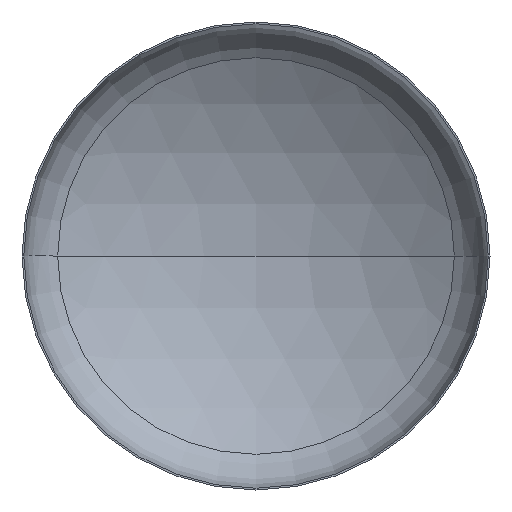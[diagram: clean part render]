
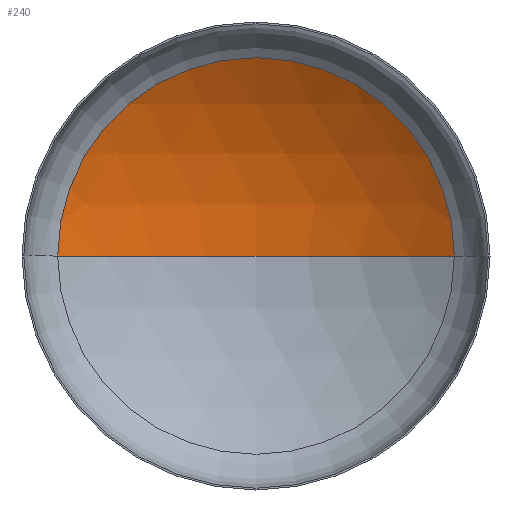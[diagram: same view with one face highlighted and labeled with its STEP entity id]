
A CAD part, front view. The second image highlights one B-rep face of the part: STEP entity #240.
In plain terms, the highlighted spherical face has radius 6000 mm.
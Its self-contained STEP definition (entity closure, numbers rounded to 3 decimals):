
#25 = AXIS2_PLACEMENT_3D ( 'NONE', #253, #27, #366 ) ;
#27 = DIRECTION ( 'NONE',  ( 0., 0., -1. ) ) ;
#44 = ORIENTED_EDGE ( 'NONE', *, *, #92, .F. ) ;
#49 = AXIS2_PLACEMENT_3D ( 'NONE', #177, #169, #176 ) ;
#51 = AXIS2_PLACEMENT_3D ( 'NONE', #283, #281, #187 ) ;
#57 = AXIS2_PLACEMENT_3D ( 'NONE', #277, #135, #146 ) ;
#64 = FACE_OUTER_BOUND ( 'NONE', #216, .T. ) ;
#88 = EDGE_CURVE ( 'NONE', #201, #311, #344, .T. ) ;
#90 = EDGE_CURVE ( 'NONE', #98, #201, #288, .T. ) ;
#92 = EDGE_CURVE ( 'NONE', #98, #311, #219, .T. ) ;
#98 = VERTEX_POINT ( 'NONE', #186 ) ;
#107 = CARTESIAN_POINT ( 'NONE',  ( -3177.709, 1069.713, 0. ) ) ;
#135 = DIRECTION ( 'NONE',  ( 0., -1., 0. ) ) ;
#146 = DIRECTION ( 'NONE',  ( 1., 0., 0. ) ) ;
#169 = DIRECTION ( 'NONE',  ( 0., 0., 1. ) ) ;
#176 = DIRECTION ( 'NONE',  ( 1., 0., 0. ) ) ;
#177 = CARTESIAN_POINT ( 'NONE',  ( 0., -4019.704, 0. ) ) ;
#186 = CARTESIAN_POINT ( 'NONE',  ( 0., 1980.296, 0. ) ) ;
#187 = DIRECTION ( 'NONE',  ( -1., 0., 0. ) ) ;
#188 = SPHERICAL_SURFACE ( 'NONE', #25, 6000. ) ;
#201 = VERTEX_POINT ( 'NONE', #340 ) ;
#211 = ORIENTED_EDGE ( 'NONE', *, *, #90, .T. ) ;
#215 = ORIENTED_EDGE ( 'NONE', *, *, #88, .T. ) ;
#216 = EDGE_LOOP ( 'NONE', ( #44, #211, #215 ) ) ;
#219 = CIRCLE ( 'NONE', #49, 6000. ) ;
#240 = ADVANCED_FACE ( 'NONE', ( #64 ), #188, .F. ) ;
#253 = CARTESIAN_POINT ( 'NONE',  ( 0., -4019.704, 0. ) ) ;
#277 = CARTESIAN_POINT ( 'NONE',  ( 0., 1069.713, 0. ) ) ;
#281 = DIRECTION ( 'NONE',  ( 0., 0., -1. ) ) ;
#283 = CARTESIAN_POINT ( 'NONE',  ( 0., -4019.704, 0. ) ) ;
#288 = CIRCLE ( 'NONE', #51, 6000. ) ;
#311 = VERTEX_POINT ( 'NONE', #107 ) ;
#340 = CARTESIAN_POINT ( 'NONE',  ( 3177.709, 1069.713, 0. ) ) ;
#344 = CIRCLE ( 'NONE', #57, 3177.709 ) ;
#366 = DIRECTION ( 'NONE',  ( -1., 0., 0. ) ) ;
